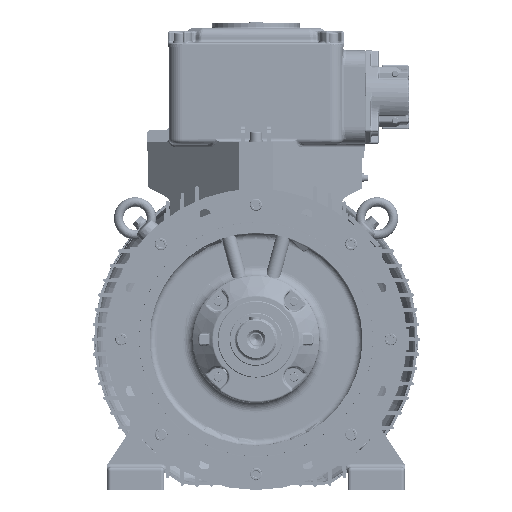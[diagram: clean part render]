
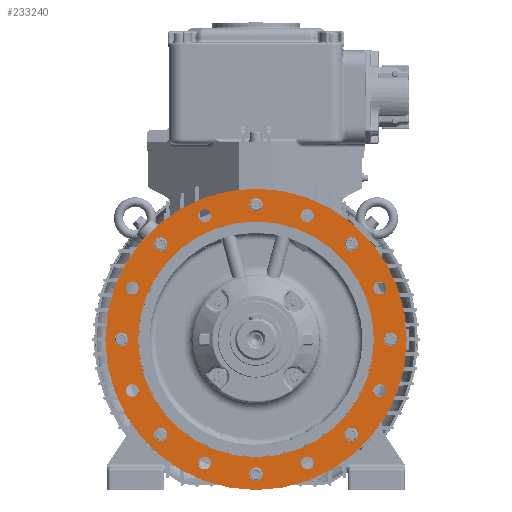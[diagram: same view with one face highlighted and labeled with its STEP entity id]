
A CAD part, left-side view. The second image highlights one B-rep face of the part: STEP entity #233240.
In plain terms, the highlighted planar face has unit normal (-1, 0, 0).
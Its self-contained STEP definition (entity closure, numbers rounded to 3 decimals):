
#39766=PLANE('',#246392);
#44081=CIRCLE('',#246292,9.5);
#44083=CIRCLE('',#246295,9.5);
#44085=CIRCLE('',#246298,9.5);
#44087=CIRCLE('',#246301,9.5);
#44089=CIRCLE('',#246304,9.5);
#44091=CIRCLE('',#246307,9.5);
#44093=CIRCLE('',#246310,9.5);
#44095=CIRCLE('',#246313,9.5);
#44096=CIRCLE('',#246315,175.919);
#44101=CIRCLE('',#246326,10.);
#44105=CIRCLE('',#246333,10.);
#44109=CIRCLE('',#246340,10.);
#44113=CIRCLE('',#246347,10.);
#44117=CIRCLE('',#246354,10.);
#44121=CIRCLE('',#246361,10.);
#44125=CIRCLE('',#246368,10.);
#44129=CIRCLE('',#246375,10.);
#44136=CIRCLE('',#246393,225.);
#85115=ORIENTED_EDGE('',*,*,#113160,.F.);
#85116=ORIENTED_EDGE('',*,*,#113127,.T.);
#85117=ORIENTED_EDGE('',*,*,#113123,.T.);
#85118=ORIENTED_EDGE('',*,*,#113119,.T.);
#85119=ORIENTED_EDGE('',*,*,#113115,.T.);
#85120=ORIENTED_EDGE('',*,*,#113111,.T.);
#85121=ORIENTED_EDGE('',*,*,#113107,.T.);
#85122=ORIENTED_EDGE('',*,*,#113103,.T.);
#85123=ORIENTED_EDGE('',*,*,#113099,.T.);
#85124=ORIENTED_EDGE('',*,*,#113094,.T.);
#85125=ORIENTED_EDGE('',*,*,#113093,.F.);
#85126=ORIENTED_EDGE('',*,*,#113091,.F.);
#85127=ORIENTED_EDGE('',*,*,#113089,.F.);
#85128=ORIENTED_EDGE('',*,*,#113087,.F.);
#85129=ORIENTED_EDGE('',*,*,#113085,.F.);
#85130=ORIENTED_EDGE('',*,*,#113083,.F.);
#85131=ORIENTED_EDGE('',*,*,#113081,.F.);
#85132=ORIENTED_EDGE('',*,*,#113079,.F.);
#113079=EDGE_CURVE('',#130090,#130090,#44081,.T.);
#113081=EDGE_CURVE('',#130092,#130092,#44083,.T.);
#113083=EDGE_CURVE('',#130094,#130094,#44085,.T.);
#113085=EDGE_CURVE('',#130096,#130096,#44087,.T.);
#113087=EDGE_CURVE('',#130098,#130098,#44089,.T.);
#113089=EDGE_CURVE('',#130100,#130100,#44091,.T.);
#113091=EDGE_CURVE('',#130102,#130102,#44093,.T.);
#113093=EDGE_CURVE('',#130104,#130104,#44095,.T.);
#113094=EDGE_CURVE('',#130105,#130105,#44096,.T.);
#113099=EDGE_CURVE('',#130109,#130109,#44101,.T.);
#113103=EDGE_CURVE('',#130111,#130111,#44105,.T.);
#113107=EDGE_CURVE('',#130113,#130113,#44109,.T.);
#113111=EDGE_CURVE('',#130115,#130115,#44113,.T.);
#113115=EDGE_CURVE('',#130117,#130117,#44117,.T.);
#113119=EDGE_CURVE('',#130119,#130119,#44121,.T.);
#113123=EDGE_CURVE('',#130121,#130121,#44125,.T.);
#113127=EDGE_CURVE('',#130123,#130123,#44129,.T.);
#113160=EDGE_CURVE('',#130149,#130149,#44136,.T.);
#130090=VERTEX_POINT('',#358320);
#130092=VERTEX_POINT('',#358325);
#130094=VERTEX_POINT('',#358330);
#130096=VERTEX_POINT('',#358335);
#130098=VERTEX_POINT('',#358340);
#130100=VERTEX_POINT('',#358345);
#130102=VERTEX_POINT('',#358350);
#130104=VERTEX_POINT('',#358355);
#130105=VERTEX_POINT('',#358358);
#130109=VERTEX_POINT('',#358373);
#130111=VERTEX_POINT('',#358382);
#130113=VERTEX_POINT('',#358391);
#130115=VERTEX_POINT('',#358400);
#130117=VERTEX_POINT('',#358409);
#130119=VERTEX_POINT('',#358418);
#130121=VERTEX_POINT('',#358427);
#130123=VERTEX_POINT('',#358436);
#130149=VERTEX_POINT('',#358506);
#144272=EDGE_LOOP('',(#85115));
#144273=EDGE_LOOP('',(#85116));
#144274=EDGE_LOOP('',(#85117));
#144275=EDGE_LOOP('',(#85118));
#144276=EDGE_LOOP('',(#85119));
#144277=EDGE_LOOP('',(#85120));
#144278=EDGE_LOOP('',(#85121));
#144279=EDGE_LOOP('',(#85122));
#144280=EDGE_LOOP('',(#85123));
#144281=EDGE_LOOP('',(#85124));
#144282=EDGE_LOOP('',(#85125));
#144283=EDGE_LOOP('',(#85126));
#144284=EDGE_LOOP('',(#85127));
#144285=EDGE_LOOP('',(#85128));
#144286=EDGE_LOOP('',(#85129));
#144287=EDGE_LOOP('',(#85130));
#144288=EDGE_LOOP('',(#85131));
#144289=EDGE_LOOP('',(#85132));
#156610=FACE_BOUND('',#144272,.T.);
#156611=FACE_BOUND('',#144273,.T.);
#156612=FACE_BOUND('',#144274,.T.);
#156613=FACE_BOUND('',#144275,.T.);
#156614=FACE_BOUND('',#144276,.T.);
#156615=FACE_BOUND('',#144277,.T.);
#156616=FACE_BOUND('',#144278,.T.);
#156617=FACE_BOUND('',#144279,.T.);
#156618=FACE_BOUND('',#144280,.T.);
#156619=FACE_BOUND('',#144281,.T.);
#156620=FACE_BOUND('',#144282,.T.);
#156621=FACE_BOUND('',#144283,.T.);
#156622=FACE_BOUND('',#144284,.T.);
#156623=FACE_BOUND('',#144285,.T.);
#156624=FACE_BOUND('',#144286,.T.);
#156625=FACE_BOUND('',#144287,.T.);
#156626=FACE_BOUND('',#144288,.T.);
#156627=FACE_BOUND('',#144289,.T.);
#233240=ADVANCED_FACE('',(#156610,#156611,#156612,#156613,#156614,#156615,
#156616,#156617,#156618,#156619,#156620,#156621,#156622,#156623,#156624,
#156625,#156626,#156627),#39766,.F.);
#246292=AXIS2_PLACEMENT_3D('',#358319,#286122,#286123);
#246295=AXIS2_PLACEMENT_3D('',#358324,#286128,#286129);
#246298=AXIS2_PLACEMENT_3D('',#358329,#286134,#286135);
#246301=AXIS2_PLACEMENT_3D('',#358334,#286140,#286141);
#246304=AXIS2_PLACEMENT_3D('',#358339,#286146,#286147);
#246307=AXIS2_PLACEMENT_3D('',#358344,#286152,#286153);
#246310=AXIS2_PLACEMENT_3D('',#358349,#286158,#286159);
#246313=AXIS2_PLACEMENT_3D('',#358354,#286164,#286165);
#246315=AXIS2_PLACEMENT_3D('',#358357,#286168,#286169);
#246326=AXIS2_PLACEMENT_3D('',#358372,#286190,#286191);
#246333=AXIS2_PLACEMENT_3D('',#358381,#286204,#286205);
#246340=AXIS2_PLACEMENT_3D('',#358390,#286218,#286219);
#246347=AXIS2_PLACEMENT_3D('',#358399,#286232,#286233);
#246354=AXIS2_PLACEMENT_3D('',#358408,#286246,#286247);
#246361=AXIS2_PLACEMENT_3D('',#358417,#286260,#286261);
#246368=AXIS2_PLACEMENT_3D('',#358426,#286274,#286275);
#246375=AXIS2_PLACEMENT_3D('',#358435,#286288,#286289);
#246392=AXIS2_PLACEMENT_3D('',#358504,#286348,#286349);
#246393=AXIS2_PLACEMENT_3D('',#358505,#286350,#286351);
#286122=DIRECTION('',(-1.,0.,0.));
#286123=DIRECTION('',(0.,-1.,0.));
#286128=DIRECTION('',(-1.,0.,0.));
#286129=DIRECTION('',(0.,-1.,0.));
#286134=DIRECTION('',(-1.,0.,0.));
#286135=DIRECTION('',(0.,-1.,0.));
#286140=DIRECTION('',(-1.,0.,0.));
#286141=DIRECTION('',(0.,-1.,0.));
#286146=DIRECTION('',(-1.,0.,0.));
#286147=DIRECTION('',(0.,-1.,0.));
#286152=DIRECTION('',(-1.,0.,0.));
#286153=DIRECTION('',(0.,-1.,0.));
#286158=DIRECTION('',(-1.,0.,0.));
#286159=DIRECTION('',(0.,-1.,0.));
#286164=DIRECTION('',(-1.,0.,0.));
#286165=DIRECTION('',(0.,-1.,0.));
#286168=DIRECTION('',(1.,0.,0.));
#286169=DIRECTION('',(0.,0.,1.));
#286190=DIRECTION('',(1.,0.,0.));
#286191=DIRECTION('',(0.,0.,-1.));
#286204=DIRECTION('',(1.,0.,0.));
#286205=DIRECTION('',(0.,0.,-1.));
#286218=DIRECTION('',(1.,0.,0.));
#286219=DIRECTION('',(0.,0.,-1.));
#286232=DIRECTION('',(1.,0.,0.));
#286233=DIRECTION('',(0.,0.,-1.));
#286246=DIRECTION('',(1.,0.,0.));
#286247=DIRECTION('',(0.,0.,-1.));
#286260=DIRECTION('',(1.,0.,0.));
#286261=DIRECTION('',(0.,0.,-1.));
#286274=DIRECTION('',(1.,0.,0.));
#286275=DIRECTION('',(0.,0.,-1.));
#286288=DIRECTION('',(1.,0.,0.));
#286289=DIRECTION('',(0.,0.,-1.));
#286348=DIRECTION('',(1.,0.,0.));
#286349=DIRECTION('',(0.,0.,1.));
#286350=DIRECTION('',(1.,0.,0.));
#286351=DIRECTION('',(0.,0.,1.));
#358319=CARTESIAN_POINT('',(-84.5,184.776,-76.537));
#358320=CARTESIAN_POINT('',(-84.5,175.276,-76.537));
#358324=CARTESIAN_POINT('',(-84.5,76.537,-184.776));
#358325=CARTESIAN_POINT('',(-84.5,67.037,-184.776));
#358329=CARTESIAN_POINT('',(-84.5,-76.537,-184.776));
#358330=CARTESIAN_POINT('',(-84.5,-86.037,-184.776));
#358334=CARTESIAN_POINT('',(-84.5,-184.776,-76.537));
#358335=CARTESIAN_POINT('',(-84.5,-194.276,-76.537));
#358339=CARTESIAN_POINT('',(-84.5,-184.776,76.537));
#358340=CARTESIAN_POINT('',(-84.5,-194.276,76.537));
#358344=CARTESIAN_POINT('',(-84.5,-76.537,184.776));
#358345=CARTESIAN_POINT('',(-84.5,-86.037,184.776));
#358349=CARTESIAN_POINT('',(-84.5,76.537,184.776));
#358350=CARTESIAN_POINT('',(-84.5,67.037,184.776));
#358354=CARTESIAN_POINT('',(-84.5,184.776,76.537));
#358355=CARTESIAN_POINT('',(-84.5,175.276,76.537));
#358357=CARTESIAN_POINT('',(-84.5,0.,0.));
#358358=CARTESIAN_POINT('',(-84.5,0.,175.919));
#358372=CARTESIAN_POINT('',(-84.5,142.128,142.128));
#358373=CARTESIAN_POINT('',(-84.5,142.128,132.128));
#358381=CARTESIAN_POINT('',(-84.5,201.,0.));
#358382=CARTESIAN_POINT('',(-84.5,201.,-10.));
#358390=CARTESIAN_POINT('',(-84.5,142.128,-142.128));
#358391=CARTESIAN_POINT('',(-84.5,142.128,-152.128));
#358399=CARTESIAN_POINT('',(-84.5,0.,-201.));
#358400=CARTESIAN_POINT('',(-84.5,0.,-211.));
#358408=CARTESIAN_POINT('',(-84.5,-142.128,-142.128));
#358409=CARTESIAN_POINT('',(-84.5,-142.128,-152.128));
#358417=CARTESIAN_POINT('',(-84.5,-201.,0.));
#358418=CARTESIAN_POINT('',(-84.5,-201.,-10.));
#358426=CARTESIAN_POINT('',(-84.5,-142.128,142.128));
#358427=CARTESIAN_POINT('',(-84.5,-142.128,132.128));
#358435=CARTESIAN_POINT('',(-84.5,0.,201.));
#358436=CARTESIAN_POINT('',(-84.5,0.,191.));
#358504=CARTESIAN_POINT('',(-84.5,0.,242.195));
#358505=CARTESIAN_POINT('',(-84.5,0.,0.));
#358506=CARTESIAN_POINT('',(-84.5,0.,225.));
